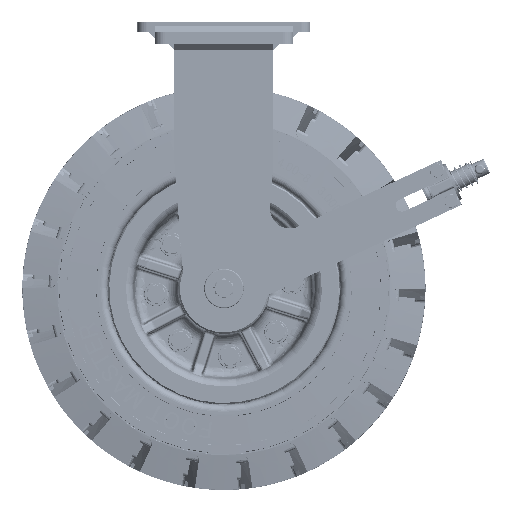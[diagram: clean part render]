
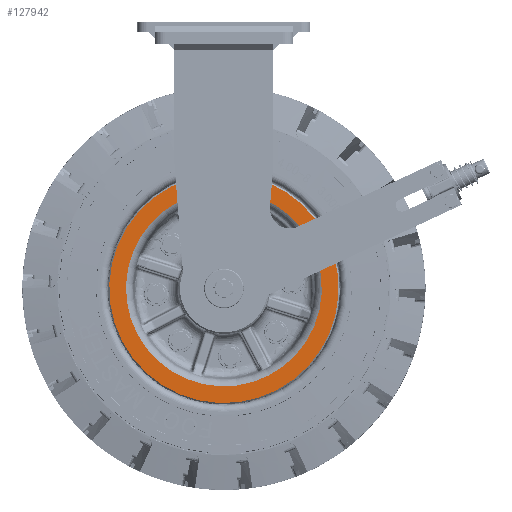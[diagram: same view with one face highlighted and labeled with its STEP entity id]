
A CAD part, front view. The second image highlights one B-rep face of the part: STEP entity #127942.
In plain terms, the highlighted planar face has unit normal (0, -1, 0).
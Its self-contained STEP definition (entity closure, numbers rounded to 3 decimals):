
#5285=FACE_BOUND('',#35495,.T.);
#6477=PLANE('',#135647);
#28252=FACE_OUTER_BOUND('',#35494,.T.);
#35494=EDGE_LOOP('',(#95422,#95423));
#35495=EDGE_LOOP('',(#95424,#95425));
#51086=CIRCLE('',#135648,116.);
#51087=CIRCLE('',#135649,116.);
#51088=CIRCLE('',#135650,99.063);
#51089=CIRCLE('',#135651,99.063);
#56412=VERTEX_POINT('',#184004);
#56413=VERTEX_POINT('',#184005);
#56414=VERTEX_POINT('',#184008);
#56415=VERTEX_POINT('',#184009);
#71000=EDGE_CURVE('',#56412,#56413,#51086,.T.);
#71001=EDGE_CURVE('',#56413,#56412,#51087,.T.);
#71002=EDGE_CURVE('',#56414,#56415,#51088,.T.);
#71003=EDGE_CURVE('',#56415,#56414,#51089,.T.);
#95422=ORIENTED_EDGE('',*,*,#71000,.T.);
#95423=ORIENTED_EDGE('',*,*,#71001,.T.);
#95424=ORIENTED_EDGE('',*,*,#71002,.F.);
#95425=ORIENTED_EDGE('',*,*,#71003,.F.);
#127942=ADVANCED_FACE('',(#28252,#5285),#6477,.F.);
#135647=AXIS2_PLACEMENT_3D('',#184003,#148439,#148440);
#135648=AXIS2_PLACEMENT_3D('',#184006,#148441,#148442);
#135649=AXIS2_PLACEMENT_3D('',#184007,#148443,#148444);
#135650=AXIS2_PLACEMENT_3D('',#184010,#148445,#148446);
#135651=AXIS2_PLACEMENT_3D('',#184011,#148447,#148448);
#148439=DIRECTION('center_axis',(0.,1.,0.));
#148440=DIRECTION('ref_axis',(-0.887,0.,-0.462));
#148441=DIRECTION('center_axis',(0.,-1.,0.));
#148442=DIRECTION('ref_axis',(0.887,0.,0.462));
#148443=DIRECTION('center_axis',(0.,-1.,0.));
#148444=DIRECTION('ref_axis',(0.887,0.,0.462));
#148445=DIRECTION('center_axis',(0.,-1.,0.));
#148446=DIRECTION('ref_axis',(0.887,0.,0.462));
#148447=DIRECTION('center_axis',(0.,-1.,0.));
#148448=DIRECTION('ref_axis',(0.887,0.,0.462));
#184003=CARTESIAN_POINT('Origin',(102.893,-118.,-205.937));
#184004=CARTESIAN_POINT('',(102.893,-118.,-205.937));
#184005=CARTESIAN_POINT('',(-102.893,-118.,-313.063));
#184006=CARTESIAN_POINT('Origin',(0.,-118.,
-259.5));
#184007=CARTESIAN_POINT('Origin',(0.,-118.,
-259.5));
#184008=CARTESIAN_POINT('',(87.87,-118.,-213.758));
#184009=CARTESIAN_POINT('',(-87.87,-118.,-305.242));
#184010=CARTESIAN_POINT('Origin',(0.,-118.,
-259.5));
#184011=CARTESIAN_POINT('Origin',(0.,-118.,
-259.5));
